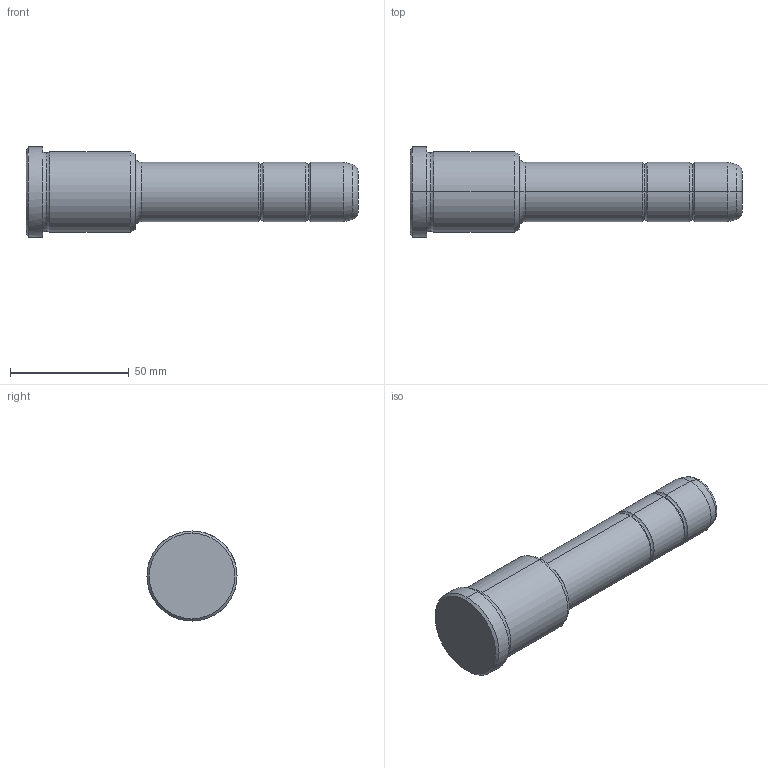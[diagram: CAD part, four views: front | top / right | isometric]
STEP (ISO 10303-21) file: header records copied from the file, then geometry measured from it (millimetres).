
FILE_DESCRIPTION(('CATIA V5 STEP Exchange'),'2;1');
FILE_NAME('C:\Users\Utente\Desktop\IO LAVORO\3D X SITO CF\X SITO\PLASTICA\351\351-25X46X140.stp','2021-08-28T07:36:47+00:00',('none'),('none'),'CATIA Version 5 Release 20 GA (IN-10)','CATIA V5 STEP AP203','none');
FILE_SCHEMA(('CONFIG_CONTROL_DESIGN'));
Length unit declared in the file: millimetre
Products named in the file (1): 351-25X46X140
Bounding box: 140 x 38 x 38 mm (x, y, z)
Volume: 88700.8 mm3; surface area: 14342.4 mm2
Topology: 1 solids, 1 shells, 36 faces, 102 edges, 70 vertices
Faces by surface type: torus 16, cylinder 10, cone 6, plane 4
Entity records: 1292 total; most frequent: CARTESIAN_POINT 321, ORIENTED_EDGE 204, DIRECTION 166, AXIS2_PLACEMENT_3D 115, EDGE_CURVE 102, CIRCLE 78, VERTEX_POINT 70, EDGE_LOOP 38
